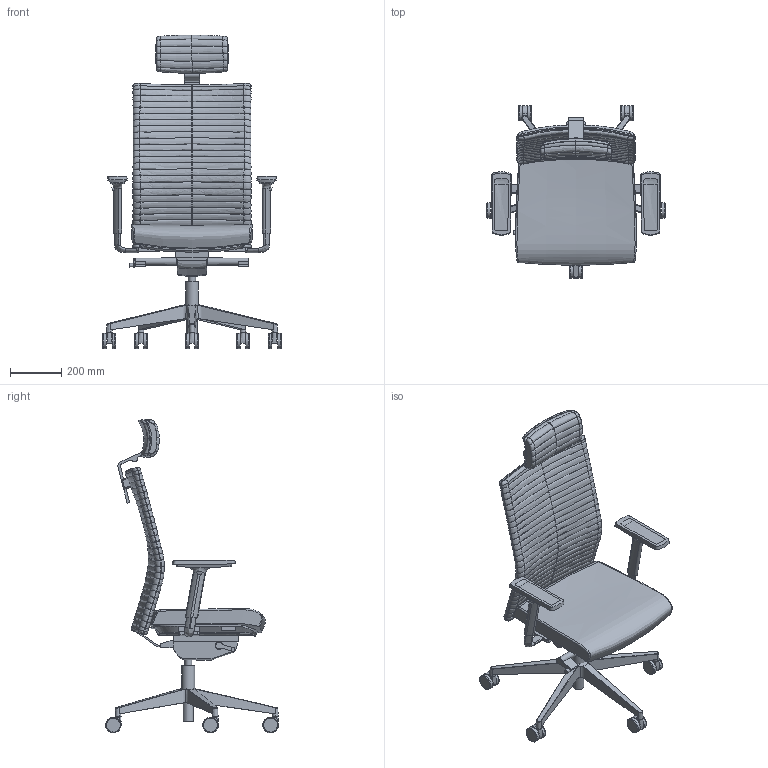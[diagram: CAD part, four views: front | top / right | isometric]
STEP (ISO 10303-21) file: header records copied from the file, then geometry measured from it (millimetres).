
FILE_DESCRIPTION(/* description */ (''),/* implementation_level */ '2;1');
FILE_NAME(/* name */ 'Element 430-SYS,HO',/* time_stamp */ '2025-06-10T12:18:48+02:00',/* author */ (''),/* organization */ (''),/* preprocessor_version */ 'ST-DEVELOPER v19.2',/* originating_system */ 'Rhino 8.19',/* authorisation */ '');
FILE_SCHEMA (('AUTOMOTIVE_DESIGN_CC2'));
Length unit declared in the file: millimetre
Products named in the file (1): Document
Bounding box: 694.82 x 673.75 x 1223.17 mm (x, y, z)
Volume: 4631041.8 mm3; surface area: 2421696.1 mm2
Topology: 20 solids, 51 shells, 775 faces, 1797 edges, 1074 vertices
Faces by surface type: bspline 496, plane 202, cylinder 77
Full cylindrical faces by diameter (mm): 15 x1, 28 x1, 40 x1, 50 x1, 60 x10
Entity records: 61282 total; most frequent: CARTESIAN_POINT 48975, ORIENTED_EDGE 3293, EDGE_CURVE 1787, B_SPLINE_CURVE_WITH_KNOTS 1376, VERTEX_POINT 1068, EDGE_LOOP 779, ADVANCED_FACE 775, FACE_OUTER_BOUND 775
